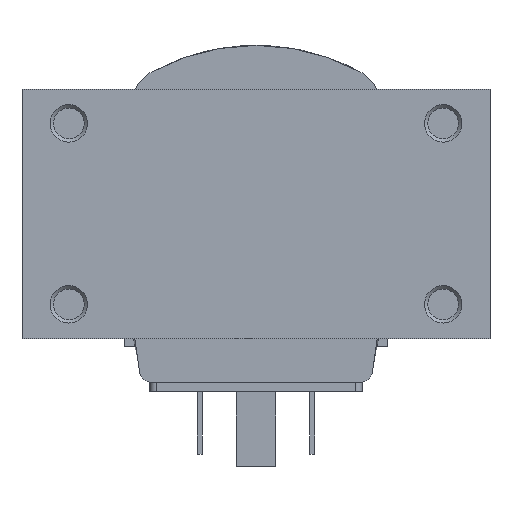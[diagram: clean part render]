
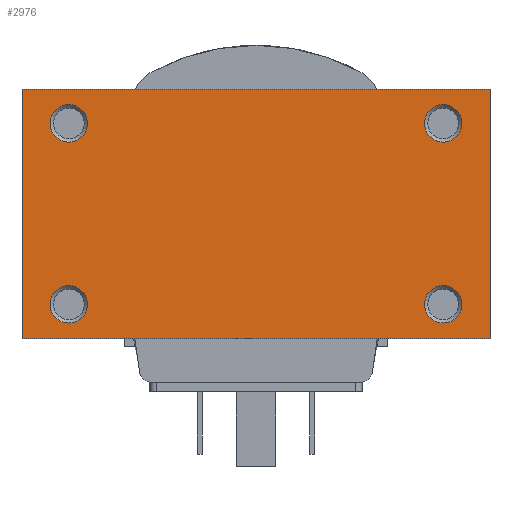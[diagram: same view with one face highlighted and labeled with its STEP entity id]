
A CAD part, front view. The second image highlights one B-rep face of the part: STEP entity #2976.
In plain terms, the highlighted planar face has unit normal (0, -1, 0).
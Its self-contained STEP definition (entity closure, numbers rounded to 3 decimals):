
#92=LINE('',#5073,#388);
#96=LINE('',#5083,#392);
#105=LINE('',#5113,#401);
#106=LINE('',#5115,#402);
#388=VECTOR('',#4177,1000.);
#392=VECTOR('',#4185,1000.);
#401=VECTOR('',#4208,1000.);
#402=VECTOR('',#4211,1000.);
#677=PLANE('',#3866);
#864=ORIENTED_EDGE('',*,*,#1684,.F.);
#865=ORIENTED_EDGE('',*,*,#1685,.F.);
#866=ORIENTED_EDGE('',*,*,#1686,.F.);
#867=ORIENTED_EDGE('',*,*,#1687,.F.);
#868=ORIENTED_EDGE('',*,*,#1683,.T.);
#869=ORIENTED_EDGE('',*,*,#1667,.F.);
#870=ORIENTED_EDGE('',*,*,#1682,.F.);
#871=ORIENTED_EDGE('',*,*,#1662,.T.);
#1662=EDGE_CURVE('',#2077,#2076,#92,.T.);
#1667=EDGE_CURVE('',#2080,#2079,#96,.T.);
#1682=EDGE_CURVE('',#2077,#2080,#105,.T.);
#1683=EDGE_CURVE('',#2076,#2079,#106,.T.);
#1684=EDGE_CURVE('',#2095,#2095,#2360,.T.);
#1685=EDGE_CURVE('',#2096,#2096,#2361,.T.);
#1686=EDGE_CURVE('',#2097,#2097,#2362,.T.);
#1687=EDGE_CURVE('',#2098,#2098,#2363,.T.);
#2076=VERTEX_POINT('',#5072);
#2077=VERTEX_POINT('',#5074);
#2079=VERTEX_POINT('',#5080);
#2080=VERTEX_POINT('',#5082);
#2095=VERTEX_POINT('',#5118);
#2096=VERTEX_POINT('',#5120);
#2097=VERTEX_POINT('',#5122);
#2098=VERTEX_POINT('',#5124);
#2360=CIRCLE('',#3867,3.);
#2361=CIRCLE('',#3868,3.);
#2362=CIRCLE('',#3869,3.);
#2363=CIRCLE('',#3870,3.);
#2446=EDGE_LOOP('',(#864));
#2447=EDGE_LOOP('',(#865));
#2448=EDGE_LOOP('',(#866));
#2449=EDGE_LOOP('',(#867));
#2450=EDGE_LOOP('',(#868,#869,#870,#871));
#2698=FACE_BOUND('',#2446,.T.);
#2699=FACE_BOUND('',#2447,.T.);
#2700=FACE_BOUND('',#2448,.T.);
#2701=FACE_BOUND('',#2449,.T.);
#2702=FACE_BOUND('',#2450,.T.);
#2976=ADVANCED_FACE('',(#2698,#2699,#2700,#2701,#2702),#677,.F.);
#3866=AXIS2_PLACEMENT_3D('',#5116,#4212,#4213);
#3867=AXIS2_PLACEMENT_3D('',#5117,#4214,#4215);
#3868=AXIS2_PLACEMENT_3D('',#5119,#4216,#4217);
#3869=AXIS2_PLACEMENT_3D('',#5121,#4218,#4219);
#3870=AXIS2_PLACEMENT_3D('',#5123,#4220,#4221);
#4177=DIRECTION('',(0.,0.,-1.));
#4185=DIRECTION('',(0.,0.,-1.));
#4208=DIRECTION('',(1.,0.,0.));
#4211=DIRECTION('',(1.,0.,0.));
#4212=DIRECTION('',(0.,1.,0.));
#4213=DIRECTION('',(0.,0.,1.));
#4214=DIRECTION('',(0.,-1.,0.));
#4215=DIRECTION('',(0.,0.,-1.));
#4216=DIRECTION('',(0.,-1.,0.));
#4217=DIRECTION('',(0.,0.,-1.));
#4218=DIRECTION('',(0.,-1.,0.));
#4219=DIRECTION('',(0.,0.,-1.));
#4220=DIRECTION('',(0.,-1.,0.));
#4221=DIRECTION('',(0.,0.,-1.));
#5072=CARTESIAN_POINT('',(-37.5,-15.,-19.99));
#5073=CARTESIAN_POINT('',(-37.5,-15.,19.99));
#5074=CARTESIAN_POINT('',(-37.5,-15.,19.99));
#5080=CARTESIAN_POINT('',(37.5,-15.,-19.99));
#5082=CARTESIAN_POINT('',(37.5,-15.,19.99));
#5083=CARTESIAN_POINT('',(37.5,-15.,19.99));
#5113=CARTESIAN_POINT('',(-37.5,-15.,19.99));
#5115=CARTESIAN_POINT('',(-37.5,-15.,-19.99));
#5116=CARTESIAN_POINT('',(19.5,-15.,0.));
#5117=CARTESIAN_POINT('',(-30.,-15.,-14.5));
#5118=CARTESIAN_POINT('',(-30.,-15.,-17.5));
#5119=CARTESIAN_POINT('',(30.,-15.,14.5));
#5120=CARTESIAN_POINT('',(30.,-15.,11.5));
#5121=CARTESIAN_POINT('',(30.,-15.,-14.5));
#5122=CARTESIAN_POINT('',(30.,-15.,-17.5));
#5123=CARTESIAN_POINT('',(-30.,-15.,14.5));
#5124=CARTESIAN_POINT('',(-30.,-15.,11.5));
